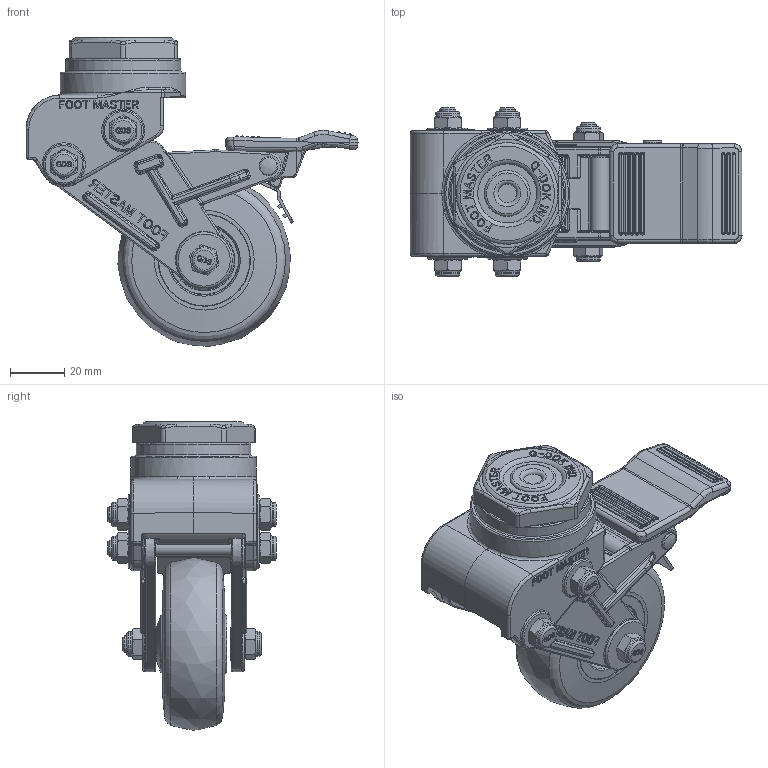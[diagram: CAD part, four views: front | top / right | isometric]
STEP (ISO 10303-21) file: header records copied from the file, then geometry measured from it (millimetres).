
FILE_DESCRIPTION(/* description */ (''),/* implementation_level */ '2;1');
FILE_NAME(/* name */ 'C:\Users\admin\Desktop\JYS\개발품\상세설계_20220328\홈페이지용 도면\GDS-65-BSS-EUS.stp',/* time_stamp */ '2023-03-08T15:14:57+09:00',/* author */ ('admin'),/* organization */ (''),/* preprocessor_version */ 'ST-DEVELOPER v18.1',/* originating_system */ 'Autodesk Inventor 2021',/* authorisation */ '');
FILE_SCHEMA (('AUTOMOTIVE_DESIGN { 1 0 10303 214 3 1 1 }'));
Products named in the file (1): GDS-65_BSS_REV01_Shrinkwrap_1
Bounding box: 122.96 x 62.3 x 114.37 mm (x, y, z)
Volume: 163113 mm3; surface area: 56590.6 mm2
Topology: 1 solids, 1 shells, 2704 faces, 6933 edges, 4332 vertices
Faces by surface type: plane 940, bspline 862, cylinder 541, cone 159, torus 150, sphere 52
Full cylindrical faces by diameter (mm): 2 x1, 4 x3, 6 x5, 7 x2, 8.8 x3, 9 x6, 17.216 x2, 18 x1, 20 x2, 22 x2, 22.784 x2, 30 x1, 42.5 x1, 46.5 x1
Entity records: 94572 total; most frequent: CARTESIAN_POINT 30951, ORIENTED_EDGE 13786, DIRECTION 10849, EDGE_CURVE 6893, VERTEX_POINT 4332, AXIS2_PLACEMENT_3D 3809, LINE 3231, VECTOR 3231
